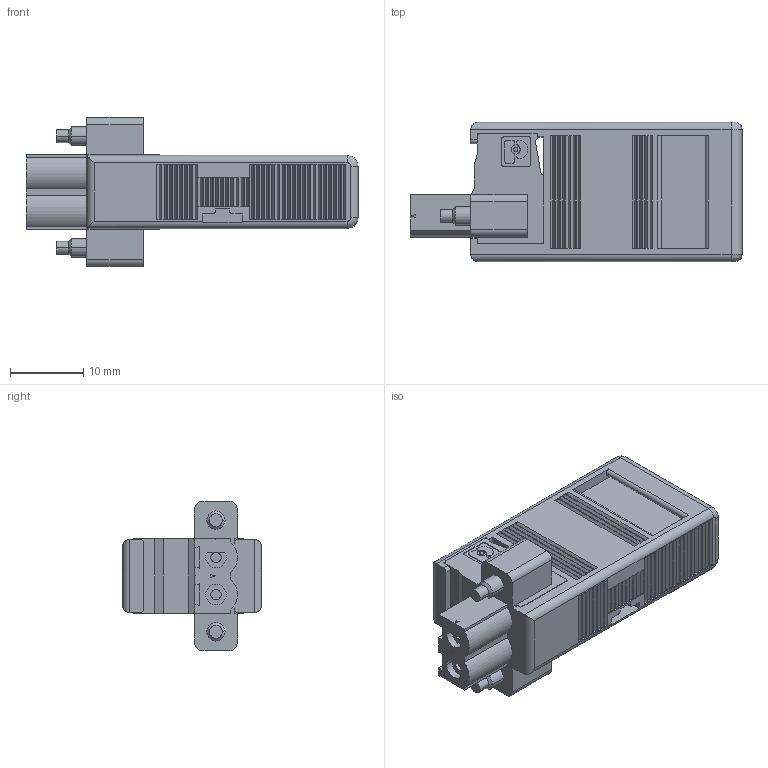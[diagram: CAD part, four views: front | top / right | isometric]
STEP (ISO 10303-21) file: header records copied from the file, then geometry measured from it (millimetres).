
FILE_DESCRIPTION((''),'2;1');
FILE_NAME('CU_CONN_CRIO_2_POS_CMBCN_TB','2007-06-11T',('jpearson'),(''),'PRO/ENGINEER BY PARAMETRIC TECHNOLOGY CORPORATION, 2006080','PRO/ENGINEER BY PARAMETRIC TECHNOLOGY CORPORATION, 2006080','');
FILE_SCHEMA(('CONFIG_CONTROL_DESIGN'));
Length unit declared in the file: inch
Products named in the file (1): CU_CONN_CRIO_2_POS_CMBCN_TB
Bounding box: 45.3 x 19 x 20.32 mm (x, y, z)
Volume: 7093.7 mm3; surface area: 4277.9 mm2
Topology: 1 solids, 1 shells, 670 faces, 1622 edges, 1068 vertices
Faces by surface type: plane 551, cylinder 103, torus 8, bspline 4, cone 4
Entity records: 19466 total; most frequent: CARTESIAN_POINT 3456, ORIENTED_EDGE 3244, DIRECTION 3206, EDGE_CURVE 1622, VECTOR 1362, LINE 1362, VERTEX_POINT 1068, AXIS2_PLACEMENT_3D 922
